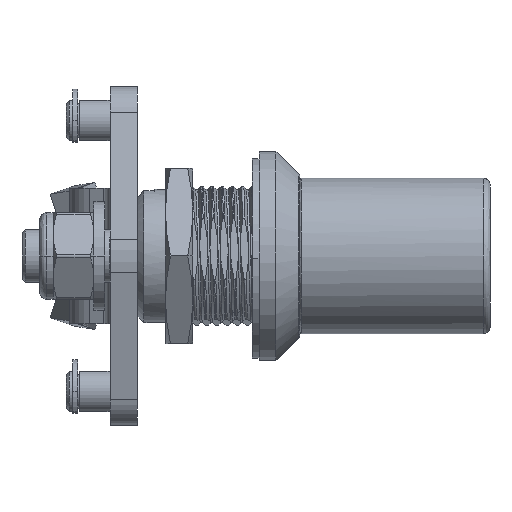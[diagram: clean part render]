
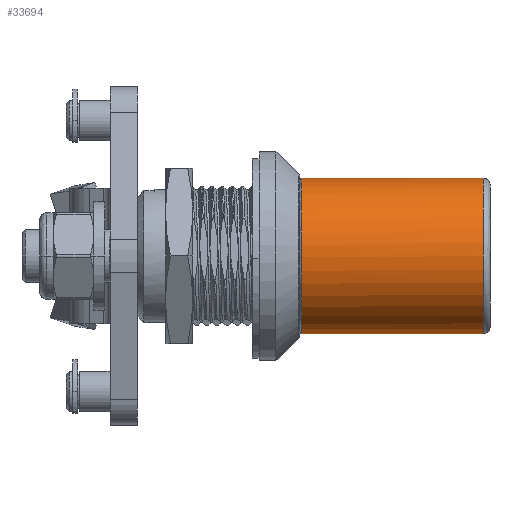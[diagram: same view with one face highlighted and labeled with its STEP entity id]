
A CAD part, left-side view. The second image highlights one B-rep face of the part: STEP entity #33694.
In plain terms, the highlighted cylindrical face has radius 11.5 mm (diameter 23 mm), a partial arc.
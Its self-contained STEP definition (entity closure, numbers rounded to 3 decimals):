
#130 = ORIENTED_EDGE ( 'NONE', *, *, #2801, .F. ) ;
#797 = DIRECTION ( 'NONE',  ( 0., 1., 0. ) ) ;
#1364 = ORIENTED_EDGE ( 'NONE', *, *, #34950, .T. ) ;
#2033 = CARTESIAN_POINT ( 'NONE',  ( 0., -0.1, 11.5 ) ) ;
#2801 = EDGE_CURVE ( 'NONE', #35889, #29073, #39305, .T. ) ;
#3971 = EDGE_CURVE ( 'NONE', #35889, #6939, #34522, .T. ) ;
#4355 = LINE ( 'NONE', #26121, #25988 ) ;
#6744 = AXIS2_PLACEMENT_3D ( 'NONE', #11891, #11498, #12081 ) ;
#6939 = VERTEX_POINT ( 'NONE', #19951 ) ;
#7266 = VECTOR ( 'NONE', #39678, 1000. ) ;
#8383 = CARTESIAN_POINT ( 'NONE',  ( 0., 27.7, -11.5 ) ) ;
#8412 = CYLINDRICAL_SURFACE ( 'NONE', #6744, 11.5 ) ;
#8690 = EDGE_CURVE ( 'NONE', #34192, #36872, #30122, .T. ) ;
#9065 = ORIENTED_EDGE ( 'NONE', *, *, #8690, .T. ) ;
#9706 = EDGE_CURVE ( 'NONE', #35678, #21288, #36517, .T. ) ;
#10912 = DIRECTION ( 'NONE',  ( 0., 1., 0. ) ) ;
#11498 = DIRECTION ( 'NONE',  ( 0., 1., 0. ) ) ;
#11891 = CARTESIAN_POINT ( 'NONE',  ( 0., -0.1, 0. ) ) ;
#12081 = DIRECTION ( 'NONE',  ( 0., 0., 1. ) ) ;
#12298 = FACE_OUTER_BOUND ( 'NONE', #18444, .T. ) ;
#12513 = DIRECTION ( 'NONE',  ( 0., 0., 1. ) ) ;
#12577 = CARTESIAN_POINT ( 'NONE',  ( 0., 27.7, 0. ) ) ;
#13114 = VERTEX_POINT ( 'NONE', #25519 ) ;
#13383 = CARTESIAN_POINT ( 'NONE',  ( 0., 27.7, 0. ) ) ;
#13493 = CARTESIAN_POINT ( 'NONE',  ( 0., 2.542, 11.5 ) ) ;
#14142 = CARTESIAN_POINT ( 'NONE',  ( 0., -0.1, -11.5 ) ) ;
#14156 = EDGE_CURVE ( 'NONE', #13114, #34192, #16429, .T. ) ;
#14673 = CIRCLE ( 'NONE', #29758, 11.5 ) ;
#14992 = VECTOR ( 'NONE', #797, 1000. ) ;
#16158 = CIRCLE ( 'NONE', #39187, 11.5 ) ;
#16429 = LINE ( 'NONE', #28923, #14992 ) ;
#16656 = DIRECTION ( 'NONE',  ( 0., 1., 0. ) ) ;
#17705 = CARTESIAN_POINT ( 'NONE',  ( -11.498, 27.7, -0.22 ) ) ;
#18444 = EDGE_LOOP ( 'NONE', ( #21282, #20275, #34633, #38247, #9065, #1364, #29507, #130, #21958 ) ) ;
#18717 = CARTESIAN_POINT ( 'NONE',  ( 0., 0., -11.5 ) ) ;
#18977 = VERTEX_POINT ( 'NONE', #17705 ) ;
#19345 = DIRECTION ( 'NONE',  ( 0., 0., 1. ) ) ;
#19936 = DIRECTION ( 'NONE',  ( 0., 0., 1. ) ) ;
#19951 = CARTESIAN_POINT ( 'NONE',  ( 0., 2.542, -11.5 ) ) ;
#20275 = ORIENTED_EDGE ( 'NONE', *, *, #9706, .F. ) ;
#21282 = ORIENTED_EDGE ( 'NONE', *, *, #38643, .F. ) ;
#21288 = VERTEX_POINT ( 'NONE', #28452 ) ;
#21958 = ORIENTED_EDGE ( 'NONE', *, *, #3971, .T. ) ;
#22440 = DIRECTION ( 'NONE',  ( 0., 0., 1. ) ) ;
#22637 = DIRECTION ( 'NONE',  ( 0., -1., 0. ) ) ;
#22861 = DIRECTION ( 'NONE',  ( 0., -1., 0. ) ) ;
#23199 = VECTOR ( 'NONE', #16656, 1000. ) ;
#23253 = DIRECTION ( 'NONE',  ( 0., -1., 0. ) ) ;
#25519 = CARTESIAN_POINT ( 'NONE',  ( 0., 0.9, 11.5 ) ) ;
#25988 = VECTOR ( 'NONE', #10912, 1000. ) ;
#26121 = CARTESIAN_POINT ( 'NONE',  ( 0., -0.1, -11.5 ) ) ;
#26481 = CARTESIAN_POINT ( 'NONE',  ( 0., 10., -11.5 ) ) ;
#27929 = CIRCLE ( 'NONE', #33213, 11.5 ) ;
#28101 = DIRECTION ( 'NONE',  ( 0., -1., 0. ) ) ;
#28452 = CARTESIAN_POINT ( 'NONE',  ( 0., 0.9, -11.5 ) ) ;
#28923 = CARTESIAN_POINT ( 'NONE',  ( 0., -0.1, 11.5 ) ) ;
#29073 = VERTEX_POINT ( 'NONE', #8383 ) ;
#29507 = ORIENTED_EDGE ( 'NONE', *, *, #38586, .T. ) ;
#29758 = AXIS2_PLACEMENT_3D ( 'NONE', #12577, #22637, #19345 ) ;
#30122 = LINE ( 'NONE', #2033, #7266 ) ;
#30427 = VECTOR ( 'NONE', #31632, 1000. ) ;
#31632 = DIRECTION ( 'NONE',  ( 0., -1., 0. ) ) ;
#32259 = CARTESIAN_POINT ( 'NONE',  ( 0., 27.7, 11.5 ) ) ;
#32672 = CARTESIAN_POINT ( 'NONE',  ( -0.011, 0.9, 11.5 ) ) ;
#33213 = AXIS2_PLACEMENT_3D ( 'NONE', #13383, #23253, #19936 ) ;
#33694 = ADVANCED_FACE ( 'NONE', ( #12298 ), #8412, .T. ) ;
#34192 = VERTEX_POINT ( 'NONE', #13493 ) ;
#34287 = CARTESIAN_POINT ( 'NONE',  ( 0., 0.9, 0. ) ) ;
#34522 = LINE ( 'NONE', #18717, #30427 ) ;
#34633 = ORIENTED_EDGE ( 'NONE', *, *, #37036, .F. ) ;
#34950 = EDGE_CURVE ( 'NONE', #36872, #18977, #14673, .T. ) ;
#35187 = CARTESIAN_POINT ( 'NONE',  ( 0., 0.9, 0. ) ) ;
#35678 = VERTEX_POINT ( 'NONE', #32672 ) ;
#35889 = VERTEX_POINT ( 'NONE', #26481 ) ;
#36517 = CIRCLE ( 'NONE', #38506, 11.5 ) ;
#36872 = VERTEX_POINT ( 'NONE', #32259 ) ;
#37036 = EDGE_CURVE ( 'NONE', #13114, #35678, #16158, .T. ) ;
#38247 = ORIENTED_EDGE ( 'NONE', *, *, #14156, .T. ) ;
#38506 = AXIS2_PLACEMENT_3D ( 'NONE', #35187, #22861, #22440 ) ;
#38586 = EDGE_CURVE ( 'NONE', #18977, #29073, #27929, .T. ) ;
#38643 = EDGE_CURVE ( 'NONE', #21288, #6939, #4355, .T. ) ;
#39187 = AXIS2_PLACEMENT_3D ( 'NONE', #34287, #28101, #12513 ) ;
#39305 = LINE ( 'NONE', #14142, #23199 ) ;
#39678 = DIRECTION ( 'NONE',  ( 0., 1., 0. ) ) ;
